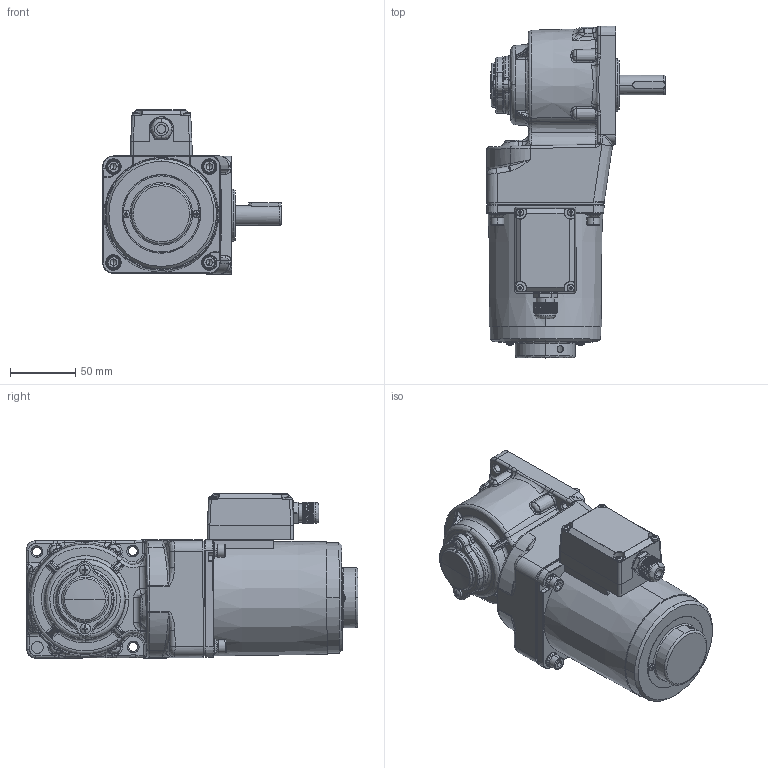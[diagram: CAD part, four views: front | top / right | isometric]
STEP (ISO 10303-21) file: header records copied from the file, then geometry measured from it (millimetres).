
FILE_DESCRIPTION (( 'STEP AP203' ), '1' );
FILE_NAME ('5IK40RGU-CT(5GU3RT-180RT)ÐÂ.STEP', '2023-08-17T06:43:28', ( 'Windows User' ), ( 'P R C' ), 'SwSTEP 2.0', 'SolidWorks 2019', '' );
FILE_SCHEMA (( 'CONFIG_CONTROL_DESIGN' ));
Length unit declared in the file: millimetre
Products named in the file (10): 5IK40RGU-CT(5GU3RT-180RT)^5IK40RGU-CT(5GU3RT-180RT)ÐÂ(2)_5IK40RGU-CT(5GU3RT-180RT)ÐÂ; ZD-5GU50RC-505-003______^5IK40RGU-CT(5GU3RT-180RT)陔(2)_5IK40RGU-CT(5GU3RT-180RT)陔; 5IK40RGU-CT(5GU3RT-180RT)陔; cross recessed pan head screws gb_GB_CROSS_SCREWS_TYPE1 M4X6-6  H type-N^5IK40RGU-CT(5GU3RT-180RT)ÐÂ(2)_5IK40RGU-CT(5GU3RT-180RT)ÐÂ; 90____^5IK40RGU-CT(5GU3RT-180RT)陔(2)_5IK40RGU-CT(5GU3RT-180RT)陔; 5IK40RGU-CT(5GU3RT-180RT)陔(2)^5IK40RGU-CT(5GU3RT-180RT)陔; hexagon socket head cap screws gb_GB_FASTENER_SCREWS_HSHCS M5X12-N^5IK40RGU-CT(5GU3RT-180RT)ÐÂ(2)_5IK40RGU-CT(5GU3RT-180RT)ÐÂ; zd-5gu-50rc-504-001m#________ 2021-12-07 - ____^5IK40RGU-CT(5GU3RT-180RT)陔(2)_5IK40RGU-CT(5GU3RT-180RT)陔; 90__________^5IK40RGU-CT(5GU3RT-180RT)陔(2)_5IK40RGU-CT(5GU3RT-180RT)陔; 90RT____________^5IK40RGU-CT(5GU3RT-180RT)陔(2)_5IK40RGU-CT(5GU3RT-180RT)陔
Assembly tree (13 placements, depth 3):
  5IK40RGU-CT(5GU3RT-180RT)陔
    5IK40RGU-CT(5GU3RT-180RT)陔(2)^5IK40RGU-CT(5GU3RT-180RT)陔
      zd-5gu-50rc-504-001m#________ 2021-12-07 - ____^5IK40RGU-CT(5GU3RT-180RT)陔(2)_5IK40RGU-CT(5GU3RT-180RT)陔
      90__________^5IK40RGU-CT(5GU3RT-180RT)陔(2)_5IK40RGU-CT(5GU3RT-180RT)陔
      90____^5IK40RGU-CT(5GU3RT-180RT)陔(2)_5IK40RGU-CT(5GU3RT-180RT)陔
      ZD-5GU50RC-505-003______^5IK40RGU-CT(5GU3RT-180RT)陔(2)_5IK40RGU-CT(5GU3RT-180RT)陔
      90RT____________^5IK40RGU-CT(5GU3RT-180RT)陔(2)_5IK40RGU-CT(5GU3RT-180RT)陔
      hexagon socket head cap screws gb_GB_FASTENER_SCREWS_HSHCS M5X12-N^5IK40RGU-CT(5GU3RT-180RT)ÐÂ(2)_5IK40RGU-CT(5GU3RT-180RT)ÐÂ  x4
      cross recessed pan head screws gb_GB_CROSS_SCREWS_TYPE1 M4X6-6  H type-N^5IK40RGU-CT(5GU3RT-180RT)ÐÂ(2)_5IK40RGU-CT(5GU3RT-180RT)ÐÂ  x2
      5IK40RGU-CT(5GU3RT-180RT)^5IK40RGU-CT(5GU3RT-180RT)ÐÂ(2)_5IK40RGU-CT(5GU3RT-180RT)ÐÂ
Bounding box: 137 x 254.61 x 126.22 mm (x, y, z)
Volume: 899922.2 mm3; surface area: 199532.3 mm2
Topology: 29 solids, 40 shells, 2884 faces, 7100 edges, 4224 vertices
Faces by surface type: cone 827, plane 709, cylinder 703, bspline 544, torus 91, sphere 10
Entity records: 118432 total; most frequent: CARTESIAN_POINT 58782, ORIENTED_EDGE 13440, DIRECTION 10617, EDGE_CURVE 6722, AXIS2_PLACEMENT_3D 4319, VERTEX_POINT 4082, EDGE_LOOP 2904, FACE_OUTER_BOUND 2784
